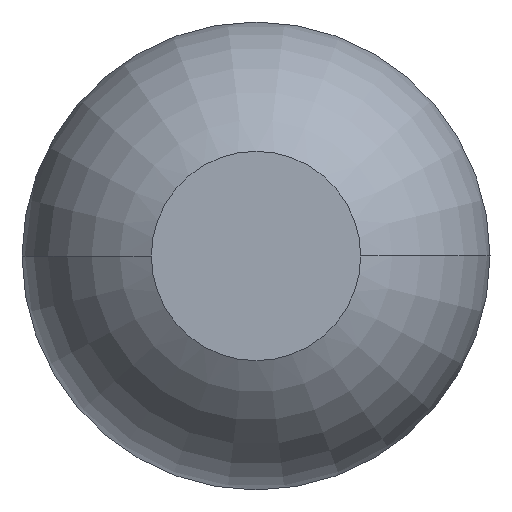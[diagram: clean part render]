
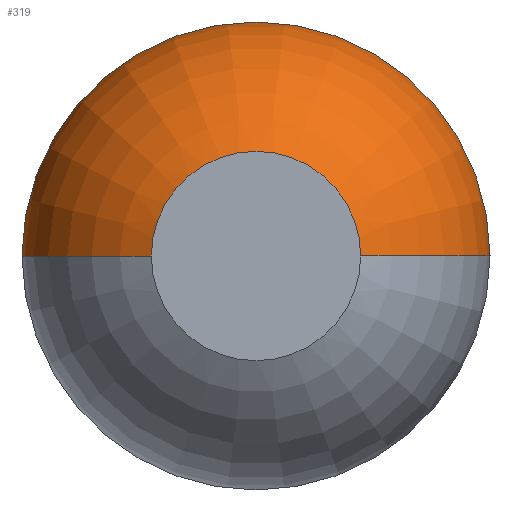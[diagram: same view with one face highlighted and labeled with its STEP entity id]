
A CAD part, left-side view. The second image highlights one B-rep face of the part: STEP entity #319.
In plain terms, the highlighted toroidal (fillet/blend) face has major radius 0.003 mm and minor radius 0.508 mm.
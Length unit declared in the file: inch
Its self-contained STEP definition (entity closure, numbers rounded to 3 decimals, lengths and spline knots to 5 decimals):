
#1 = CARTESIAN_POINT ( 'NONE',  ( 0., -0.009, 0. ) ) ;
#8 = DIRECTION ( 'NONE',  ( 1., 0., 0. ) ) ;
#42 = EDGE_CURVE ( 'NONE', #414, #219, #400, .T. ) ;
#49 = CARTESIAN_POINT ( 'NONE',  ( 0.01792, 0., 0. ) ) ;
#157 = ORIENTED_EDGE ( 'NONE', *, *, #42, .T. ) ;
#192 = VERTEX_POINT ( 'NONE', #598 ) ;
#197 = CARTESIAN_POINT ( 'NONE',  ( 0., 0.009, 0. ) ) ;
#219 = VERTEX_POINT ( 'NONE', #1 ) ;
#224 = CARTESIAN_POINT ( 'NONE',  ( 0.01792, 0.00013, 0. ) ) ;
#236 = DIRECTION ( 'NONE',  ( 0., 1., 0. ) ) ;
#314 = FACE_OUTER_BOUND ( 'NONE', #752, .T. ) ;
#319 = ADVANCED_FACE ( 'NONE', ( #314 ), #970, .T. ) ;
#332 = CARTESIAN_POINT ( 'NONE',  ( 0.01792, 0., 0. ) ) ;
#360 = EDGE_CURVE ( 'NONE', #219, #425, #461, .T. ) ;
#381 = CIRCLE ( 'NONE', #941, 0.02013 ) ;
#394 = DIRECTION ( 'NONE',  ( 0., 1., 0. ) ) ;
#400 = CIRCLE ( 'NONE', #809, 0.009 ) ;
#414 = VERTEX_POINT ( 'NONE', #197 ) ;
#425 = VERTEX_POINT ( 'NONE', #723 ) ;
#445 = EDGE_CURVE ( 'NONE', #414, #192, #479, .T. ) ;
#458 = DIRECTION ( 'NONE',  ( 0., 0., 1. ) ) ;
#461 = CIRCLE ( 'NONE', #901, 0.02 ) ;
#479 = CIRCLE ( 'NONE', #1110, 0.02 ) ;
#485 = DIRECTION ( 'NONE',  ( 1., 0., 0. ) ) ;
#537 = EDGE_CURVE ( 'NONE', #192, #425, #381, .T. ) ;
#551 = ORIENTED_EDGE ( 'NONE', *, *, #537, .F. ) ;
#560 = DIRECTION ( 'NONE',  ( -1., 0., 0. ) ) ;
#568 = DIRECTION ( 'NONE',  ( 0., 0., -1. ) ) ;
#598 = CARTESIAN_POINT ( 'NONE',  ( 0.01792, 0.02013, 0. ) ) ;
#617 = CARTESIAN_POINT ( 'NONE',  ( 0.01792, -0.00013, 0. ) ) ;
#723 = CARTESIAN_POINT ( 'NONE',  ( 0.01792, -0.02013, 0. ) ) ;
#749 = AXIS2_PLACEMENT_3D ( 'NONE', #332, #8, #1057 ) ;
#752 = EDGE_LOOP ( 'NONE', ( #157, #1055, #551, #952 ) ) ;
#809 = AXIS2_PLACEMENT_3D ( 'NONE', #1015, #485, #236 ) ;
#901 = AXIS2_PLACEMENT_3D ( 'NONE', #617, #458, #1061 ) ;
#941 = AXIS2_PLACEMENT_3D ( 'NONE', #49, #1002, #394 ) ;
#952 = ORIENTED_EDGE ( 'NONE', *, *, #445, .F. ) ;
#970 = TOROIDAL_SURFACE ( 'NONE', #749, 0.00013, 0.02 ) ;
#1002 = DIRECTION ( 'NONE',  ( 1., 0., 0. ) ) ;
#1015 = CARTESIAN_POINT ( 'NONE',  ( 0., 0., 0. ) ) ;
#1055 = ORIENTED_EDGE ( 'NONE', *, *, #360, .T. ) ;
#1057 = DIRECTION ( 'NONE',  ( 0., 1., 0. ) ) ;
#1061 = DIRECTION ( 'NONE',  ( 0., -1., 0. ) ) ;
#1110 = AXIS2_PLACEMENT_3D ( 'NONE', #224, #568, #560 ) ;
